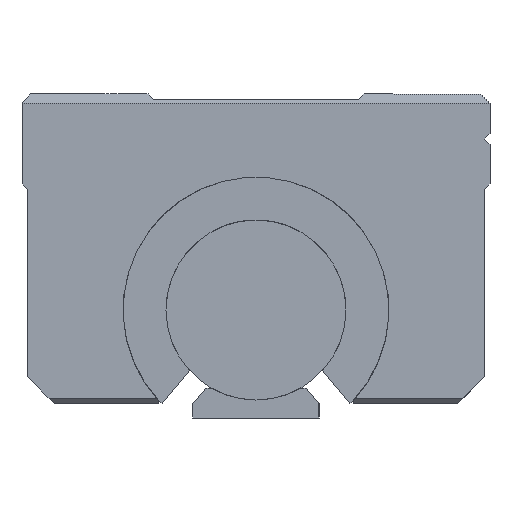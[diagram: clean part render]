
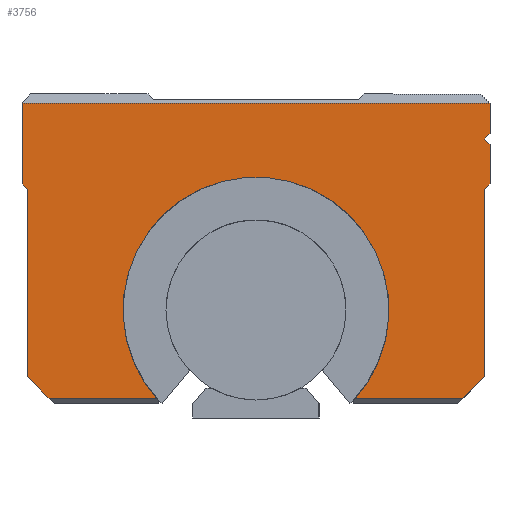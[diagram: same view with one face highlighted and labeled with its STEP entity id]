
A CAD part, left-side view. The second image highlights one B-rep face of the part: STEP entity #3756.
In plain terms, the highlighted planar face has unit normal (-1, 0, 0).
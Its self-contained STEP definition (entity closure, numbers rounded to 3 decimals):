
#2916=CARTESIAN_POINT('',(117.345,-5.52,-4.9));
#2917=VERTEX_POINT('',#2916);
#2925=CARTESIAN_POINT('',(117.345,5.52,-4.9));
#2926=VERTEX_POINT('',#2925);
#2927=CARTESIAN_POINT('',(117.345,0.0,0.));
#2928=DIRECTION('',(-1.0,0.0,0.0));
#2929=DIRECTION('',(0.0,-1.0,0.0));
#2930=AXIS2_PLACEMENT_3D('',#2927,#2928,#2929);
#2931=CIRCLE('',#2930,7.381);
#2932=EDGE_CURVE('',#2917,#2926,#2931,.T.);
#3108=CARTESIAN_POINT('',(117.345,-11.5,-4.9));
#3109=VERTEX_POINT('',#3108);
#3116=CARTESIAN_POINT('',(117.345,-11.5,-4.9));
#3117=DIRECTION('',(0.0,1.0,0.0));
#3118=VECTOR('',#3117,5.98);
#3119=LINE('',#3116,#3118);
#3120=EDGE_CURVE('',#3109,#2917,#3119,.T.);
#3134=CARTESIAN_POINT('',(117.345,11.5,-4.9));
#3135=VERTEX_POINT('',#3134);
#3160=CARTESIAN_POINT('',(117.345,5.52,-4.9));
#3161=DIRECTION('',(0.0,1.0,0.0));
#3162=VECTOR('',#3161,5.98);
#3163=LINE('',#3160,#3162);
#3164=EDGE_CURVE('',#2926,#3135,#3163,.T.);
#3223=CARTESIAN_POINT('',(117.345,12.7,-3.7));
#3224=VERTEX_POINT('',#3223);
#3225=CARTESIAN_POINT('',(117.345,11.5,-4.9));
#3226=DIRECTION('',(0.0,0.707,0.707));
#3227=VECTOR('',#3226,1.697);
#3228=LINE('',#3225,#3227);
#3229=EDGE_CURVE('',#3135,#3224,#3228,.T.);
#3379=CARTESIAN_POINT('',(117.345,-13.0,7.));
#3380=VERTEX_POINT('',#3379);
#3381=CARTESIAN_POINT('',(117.345,-12.7,6.7));
#3382=VERTEX_POINT('',#3381);
#3383=CARTESIAN_POINT('',(117.345,-13.0,7.));
#3384=DIRECTION('',(0.0,0.707,-0.707));
#3385=VECTOR('',#3384,0.424);
#3386=LINE('',#3383,#3385);
#3387=EDGE_CURVE('',#3380,#3382,#3386,.T.);
#3411=CARTESIAN_POINT('',(117.345,-12.7,-3.7));
#3412=VERTEX_POINT('',#3411);
#3413=CARTESIAN_POINT('',(117.345,-12.7,6.7));
#3414=DIRECTION('',(0.0,0.0,-1.0));
#3415=VECTOR('',#3414,10.4);
#3416=LINE('',#3413,#3415);
#3417=EDGE_CURVE('',#3382,#3412,#3416,.T.);
#3434=CARTESIAN_POINT('',(117.345,12.7,6.7));
#3435=VERTEX_POINT('',#3434);
#3436=CARTESIAN_POINT('',(117.345,13.0,7.));
#3437=VERTEX_POINT('',#3436);
#3438=CARTESIAN_POINT('',(117.345,12.7,6.7));
#3439=DIRECTION('',(0.0,0.707,0.707));
#3440=VECTOR('',#3439,0.424);
#3441=LINE('',#3438,#3440);
#3442=EDGE_CURVE('',#3435,#3437,#3441,.T.);
#3504=CARTESIAN_POINT('',(117.345,13.0,11.5));
#3505=VERTEX_POINT('',#3504);
#3537=CARTESIAN_POINT('',(117.345,13.0,7.));
#3538=DIRECTION('',(0.0,0.0,1.0));
#3539=VECTOR('',#3538,4.5);
#3540=LINE('',#3537,#3539);
#3541=EDGE_CURVE('',#3437,#3505,#3540,.T.);
#3584=CARTESIAN_POINT('',(117.345,-13.0,11.5));
#3585=VERTEX_POINT('',#3584);
#3616=CARTESIAN_POINT('',(117.345,13.0,11.5));
#3617=DIRECTION('',(0.0,-1.0,0.0));
#3618=VECTOR('',#3617,26.0);
#3619=LINE('',#3616,#3618);
#3620=EDGE_CURVE('',#3505,#3585,#3619,.T.);
#3683=CARTESIAN_POINT('',(117.345,12.7,-3.7));
#3684=DIRECTION('',(0.0,0.0,1.0));
#3685=VECTOR('',#3684,10.4);
#3686=LINE('',#3683,#3685);
#3687=EDGE_CURVE('',#3224,#3435,#3686,.T.);
#3703=CARTESIAN_POINT('',(117.345,-0.028,3.627));
#3704=DIRECTION('',(1.0,0.0,0.0));
#3705=DIRECTION('',(0.0,0.0,-1.0));
#3706=AXIS2_PLACEMENT_3D('',#3703,#3704,#3705);
#3707=PLANE('',#3706);
#3708=ORIENTED_EDGE('',*,*,#3120,.F.);
#3709=CARTESIAN_POINT('',(117.345,-12.7,-3.7));
#3710=DIRECTION('',(0.0,0.707,-0.707));
#3711=VECTOR('',#3710,1.697);
#3712=LINE('',#3709,#3711);
#3713=EDGE_CURVE('',#3412,#3109,#3712,.T.);
#3714=ORIENTED_EDGE('',*,*,#3713,.F.);
#3715=ORIENTED_EDGE('',*,*,#3417,.F.);
#3716=ORIENTED_EDGE('',*,*,#3387,.F.);
#3717=CARTESIAN_POINT('',(117.345,-13.0,9.2));
#3718=VERTEX_POINT('',#3717);
#3719=CARTESIAN_POINT('',(117.345,-13.0,9.2));
#3720=DIRECTION('',(0.0,0.0,-1.0));
#3721=VECTOR('',#3720,2.2);
#3722=LINE('',#3719,#3721);
#3723=EDGE_CURVE('',#3718,#3380,#3722,.T.);
#3724=ORIENTED_EDGE('',*,*,#3723,.F.);
#3725=CARTESIAN_POINT('',(117.345,-12.7,9.5));
#3726=VERTEX_POINT('',#3725);
#3727=CARTESIAN_POINT('',(117.345,-12.7,9.5));
#3728=DIRECTION('',(0.0,-0.707,-0.707));
#3729=VECTOR('',#3728,0.424);
#3730=LINE('',#3727,#3729);
#3731=EDGE_CURVE('',#3726,#3718,#3730,.T.);
#3732=ORIENTED_EDGE('',*,*,#3731,.F.);
#3733=CARTESIAN_POINT('',(117.345,-13.0,9.8));
#3734=VERTEX_POINT('',#3733);
#3735=CARTESIAN_POINT('',(117.345,-13.0,9.8));
#3736=DIRECTION('',(0.0,0.707,-0.707));
#3737=VECTOR('',#3736,0.424);
#3738=LINE('',#3735,#3737);
#3739=EDGE_CURVE('',#3734,#3726,#3738,.T.);
#3740=ORIENTED_EDGE('',*,*,#3739,.F.);
#3741=CARTESIAN_POINT('',(117.345,-13.0,11.5));
#3742=DIRECTION('',(0.0,0.0,-1.0));
#3743=VECTOR('',#3742,1.7);
#3744=LINE('',#3741,#3743);
#3745=EDGE_CURVE('',#3585,#3734,#3744,.T.);
#3746=ORIENTED_EDGE('',*,*,#3745,.F.);
#3747=ORIENTED_EDGE('',*,*,#3620,.F.);
#3748=ORIENTED_EDGE('',*,*,#3541,.F.);
#3749=ORIENTED_EDGE('',*,*,#3442,.F.);
#3750=ORIENTED_EDGE('',*,*,#3687,.F.);
#3751=ORIENTED_EDGE('',*,*,#3229,.F.);
#3752=ORIENTED_EDGE('',*,*,#3164,.F.);
#3753=ORIENTED_EDGE('',*,*,#2932,.F.);
#3754=EDGE_LOOP('',(#3708,#3714,#3715,#3716,#3724,#3732,#3740,#3746,#3747,#3748,#3749,#3750,#3751,#3752,#3753));
#3755=FACE_OUTER_BOUND('',#3754,.T.);
#3756=ADVANCED_FACE('',(#3755),#3707,.F.);
